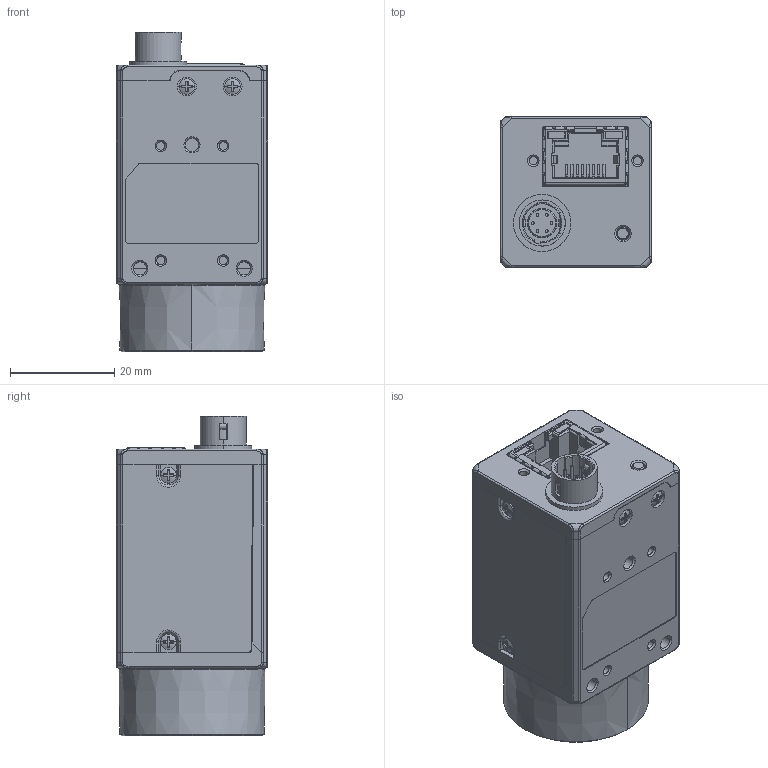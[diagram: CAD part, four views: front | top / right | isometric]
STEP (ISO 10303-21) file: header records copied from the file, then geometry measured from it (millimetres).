
FILE_DESCRIPTION((''),'2;1');
FILE_NAME('00_CARERA_1P3_CMOS_ASM_ASM_ASM','2021-07-13T13:59:00',('gengdawei'),(''),'CREO PARAMETRIC BY PTC INC, 2017260','CREO PARAMETRIC BY PTC INC, 2017260','');
FILE_SCHEMA(('CONFIG_CONTROL_DESIGN'));
Products named in the file (1): 00_CARERA_1P3_CMOS_ASM_ASM_ASM
Bounding box: 29.03 x 29 x 61.28 mm (x, y, z)
Volume: 34898.2 mm3; surface area: 14171.4 mm2
Topology: 1 solids, 24 shells, 1918 faces, 5233 edges, 3328 vertices
Faces by surface type: plane 842, cylinder 459, bspline 241, cone 217, torus 129, sphere 21, extrusion 9
Entity records: 74272 total; most frequent: CARTESIAN_POINT 27204, ORIENTED_EDGE 10440, DIRECTION 9096, EDGE_CURVE 5220, VERTEX_POINT 3328, AXIS2_PLACEMENT_3D 3180, VECTOR 2736, LINE 2727
